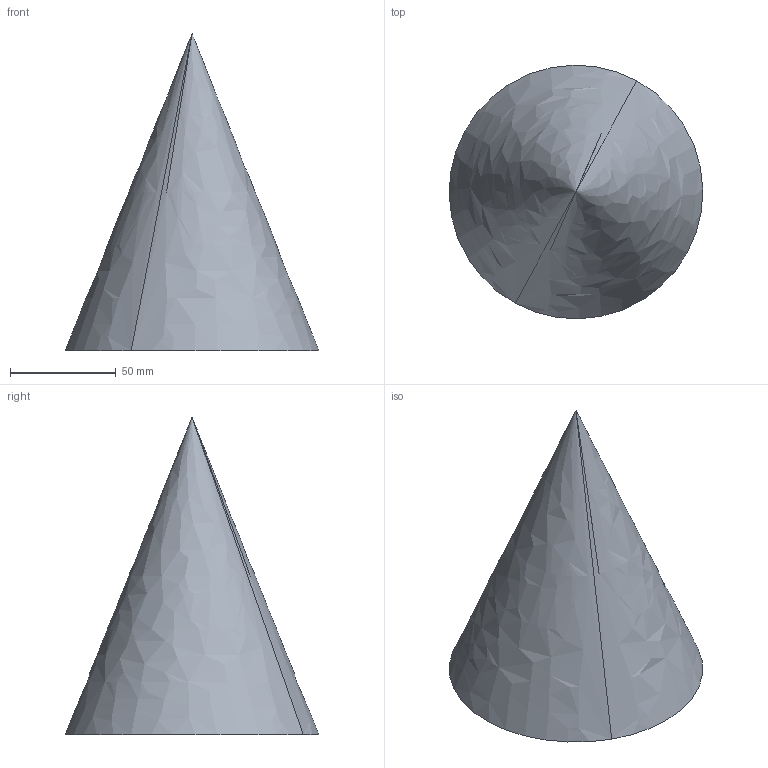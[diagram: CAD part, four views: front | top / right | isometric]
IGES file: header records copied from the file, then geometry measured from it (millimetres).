
Start section: START RECORD GO HERE.
Global section: file name: cone_CATIA.igs; native system: IBM CATIA IGES - CATIA Version 5 Release 14 ; preprocessor: CATIA Version 5 Release 14 ; author: Administrator; organization: VCAD-23B; date: 20050408.142506; units: millimetre
Bounding box: 119.97 x 119.97 x 150 mm (x, y, z)
Surface area: 41762.1 mm2 (no closed solid volume)
Topology: 0 solids, 0 shells, 3 faces, 10 edges, 8 vertices
Faces by surface type: revolution 2, plane 1
